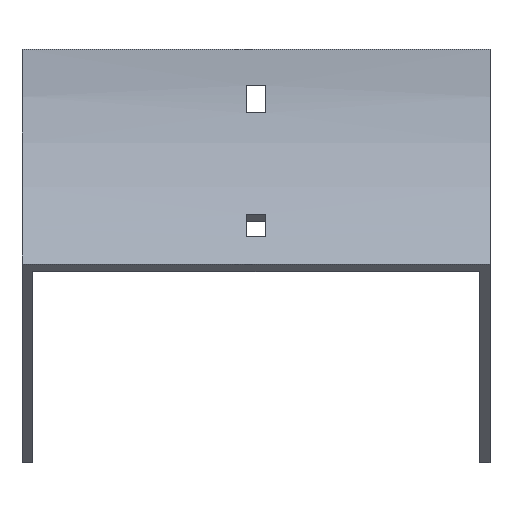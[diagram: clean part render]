
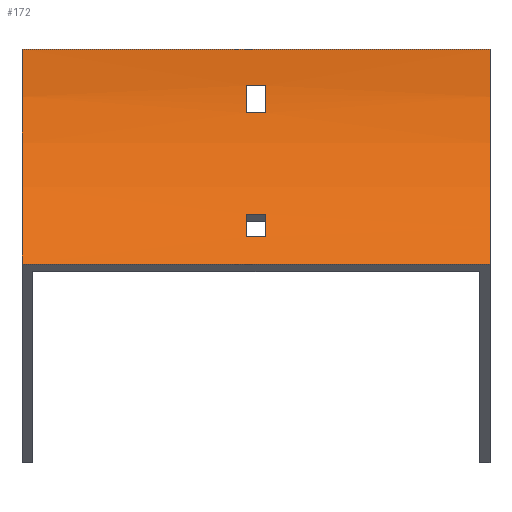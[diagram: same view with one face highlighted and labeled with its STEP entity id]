
A CAD part, front view. The second image highlights one B-rep face of the part: STEP entity #172.
In plain terms, the highlighted cylindrical face has radius 100 mm (diameter 200 mm), a partial arc.
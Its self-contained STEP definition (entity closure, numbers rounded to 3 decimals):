
#10 = CARTESIAN_POINT ( 'NONE',  ( -3.25, -100., 0. ) ) ;
#13 = LINE ( 'NONE', #554, #1464 ) ;
#73 = CARTESIAN_POINT ( 'NONE',  ( 3.25, -0.723, -12. ) ) ;
#146 = CARTESIAN_POINT ( 'NONE',  ( -3.25, -21.315, -61.714 ) ) ;
#149 = CARTESIAN_POINT ( 'NONE',  ( -77., 0., 0. ) ) ;
#158 = DIRECTION ( 'NONE',  ( 0., 0., -1. ) ) ;
#172 = ADVANCED_FACE ( 'NONE', ( #1457, #403, #1184 ), #293, .F. ) ;
#173 = DIRECTION ( 'NONE',  ( 1., 0., 0. ) ) ;
#180 = EDGE_CURVE ( 'NONE', #1000, #995, #257, .T. ) ;
#185 = VECTOR ( 'NONE', #173, 1000. ) ;
#193 = VERTEX_POINT ( 'NONE', #149 ) ;
#207 = CARTESIAN_POINT ( 'NONE',  ( -3.25, -16.017, -54.285 ) ) ;
#217 = CARTESIAN_POINT ( 'NONE',  ( -77., -100., 0. ) ) ;
#220 = CARTESIAN_POINT ( 'NONE',  ( 77., -100., 0. ) ) ;
#224 = EDGE_CURVE ( 'NONE', #1309, #585, #1073, .T. ) ;
#234 = DIRECTION ( 'NONE',  ( 0., 0., 1. ) ) ;
#257 = CIRCLE ( 'NONE', #1567, 100. ) ;
#291 = EDGE_LOOP ( 'NONE', ( #622, #1519, #376, #529 ) ) ;
#293 = CYLINDRICAL_SURFACE ( 'NONE', #439, 100. ) ;
#294 = DIRECTION ( 'NONE',  ( -1., 0., 0. ) ) ;
#319 = ORIENTED_EDGE ( 'NONE', *, *, #224, .F. ) ;
#326 = DIRECTION ( 'NONE',  ( -1., 0., 0. ) ) ;
#352 = EDGE_CURVE ( 'NONE', #1070, #1309, #1132, .T. ) ;
#376 = ORIENTED_EDGE ( 'NONE', *, *, #1510, .T. ) ;
#390 = EDGE_CURVE ( 'NONE', #995, #515, #1678, .T. ) ;
#403 = FACE_BOUND ( 'NONE', #291, .T. ) ;
#408 = CIRCLE ( 'NONE', #1584, 100. ) ;
#421 = DIRECTION ( 'NONE',  ( -1., 0., 0. ) ) ;
#428 = CIRCLE ( 'NONE', #806, 100. ) ;
#439 = AXIS2_PLACEMENT_3D ( 'NONE', #1585, #907, #797 ) ;
#464 = LINE ( 'NONE', #1474, #680 ) ;
#470 = DIRECTION ( 'NONE',  ( -1., 0., 0. ) ) ;
#511 = CARTESIAN_POINT ( 'NONE',  ( -3.25, -0.723, -12. ) ) ;
#515 = VERTEX_POINT ( 'NONE', #541 ) ;
#520 = DIRECTION ( 'NONE',  ( 1., 0., 0. ) ) ;
#529 = ORIENTED_EDGE ( 'NONE', *, *, #1428, .T. ) ;
#540 = EDGE_LOOP ( 'NONE', ( #1282, #794, #1340, #1283 ) ) ;
#541 = CARTESIAN_POINT ( 'NONE',  ( 3.25, -21.315, -61.714 ) ) ;
#554 = CARTESIAN_POINT ( 'NONE',  ( 77., -16.017, -54.285 ) ) ;
#585 = VERTEX_POINT ( 'NONE', #801 ) ;
#622 = ORIENTED_EDGE ( 'NONE', *, *, #1441, .T. ) ;
#649 = AXIS2_PLACEMENT_3D ( 'NONE', #220, #470, #859 ) ;
#657 = DIRECTION ( 'NONE',  ( -1., 0., 0. ) ) ;
#680 = VECTOR ( 'NONE', #326, 1000. ) ;
#685 = CARTESIAN_POINT ( 'NONE',  ( 77., -29.289, -70.711 ) ) ;
#692 = VECTOR ( 'NONE', #421, 1000. ) ;
#707 = EDGE_CURVE ( 'NONE', #193, #585, #428, .T. ) ;
#716 = VERTEX_POINT ( 'NONE', #73 ) ;
#722 = DIRECTION ( 'NONE',  ( 0., 0., 1. ) ) ;
#740 = DIRECTION ( 'NONE',  ( -1., 0., 0. ) ) ;
#794 = ORIENTED_EDGE ( 'NONE', *, *, #957, .F. ) ;
#797 = DIRECTION ( 'NONE',  ( 0., 0., 1. ) ) ;
#801 = CARTESIAN_POINT ( 'NONE',  ( -77., -29.289, -70.711 ) ) ;
#806 = AXIS2_PLACEMENT_3D ( 'NONE', #217, #740, #722 ) ;
#815 = DIRECTION ( 'NONE',  ( -1., 0., 0. ) ) ;
#859 = DIRECTION ( 'NONE',  ( 0., 0., 1. ) ) ;
#867 = EDGE_LOOP ( 'NONE', ( #1230, #319, #1483, #1162 ) ) ;
#882 = DIRECTION ( 'NONE',  ( 1., 0., 0. ) ) ;
#897 = VECTOR ( 'NONE', #294, 1000. ) ;
#907 = DIRECTION ( 'NONE',  ( -1., 0., 0. ) ) ;
#912 = VERTEX_POINT ( 'NONE', #1211 ) ;
#913 = VECTOR ( 'NONE', #1541, 1000. ) ;
#943 = LINE ( 'NONE', #1466, #897 ) ;
#957 = EDGE_CURVE ( 'NONE', #912, #1000, #13, .T. ) ;
#965 = CARTESIAN_POINT ( 'NONE',  ( 77., -0.723, -12. ) ) ;
#986 = CARTESIAN_POINT ( 'NONE',  ( 77., -21.315, -61.714 ) ) ;
#995 = VERTEX_POINT ( 'NONE', #146 ) ;
#1000 = VERTEX_POINT ( 'NONE', #207 ) ;
#1010 = CARTESIAN_POINT ( 'NONE',  ( 3.25, -2.23, -21. ) ) ;
#1043 = CARTESIAN_POINT ( 'NONE',  ( -3.25, -2.23, -21. ) ) ;
#1070 = VERTEX_POINT ( 'NONE', #1218 ) ;
#1073 = LINE ( 'NONE', #685, #692 ) ;
#1115 = CIRCLE ( 'NONE', #1281, 100. ) ;
#1132 = CIRCLE ( 'NONE', #649, 100. ) ;
#1162 = ORIENTED_EDGE ( 'NONE', *, *, #1394, .T. ) ;
#1175 = EDGE_CURVE ( 'NONE', #1329, #1278, #408, .T. ) ;
#1184 = FACE_BOUND ( 'NONE', #540, .T. ) ;
#1211 = CARTESIAN_POINT ( 'NONE',  ( 3.25, -16.017, -54.285 ) ) ;
#1215 = DIRECTION ( 'NONE',  ( 0., 0., -1. ) ) ;
#1218 = CARTESIAN_POINT ( 'NONE',  ( 77., 0., 0. ) ) ;
#1222 = AXIS2_PLACEMENT_3D ( 'NONE', #1577, #1232, #1215 ) ;
#1230 = ORIENTED_EDGE ( 'NONE', *, *, #707, .T. ) ;
#1232 = DIRECTION ( 'NONE',  ( -1., 0., 0. ) ) ;
#1244 = VERTEX_POINT ( 'NONE', #1010 ) ;
#1248 = EDGE_CURVE ( 'NONE', #515, #912, #1115, .T. ) ;
#1278 = VERTEX_POINT ( 'NONE', #511 ) ;
#1279 = CIRCLE ( 'NONE', #1222, 100. ) ;
#1281 = AXIS2_PLACEMENT_3D ( 'NONE', #1682, #882, #234 ) ;
#1282 = ORIENTED_EDGE ( 'NONE', *, *, #180, .F. ) ;
#1283 = ORIENTED_EDGE ( 'NONE', *, *, #390, .F. ) ;
#1309 = VERTEX_POINT ( 'NONE', #1323 ) ;
#1323 = CARTESIAN_POINT ( 'NONE',  ( 77., -29.289, -70.711 ) ) ;
#1329 = VERTEX_POINT ( 'NONE', #1043 ) ;
#1340 = ORIENTED_EDGE ( 'NONE', *, *, #1248, .F. ) ;
#1389 = DIRECTION ( 'NONE',  ( 0., 0., 1. ) ) ;
#1394 = EDGE_CURVE ( 'NONE', #1070, #193, #943, .T. ) ;
#1397 = CARTESIAN_POINT ( 'NONE',  ( -3.25, -100., 0. ) ) ;
#1428 = EDGE_CURVE ( 'NONE', #716, #1244, #1279, .T. ) ;
#1441 = EDGE_CURVE ( 'NONE', #1244, #1329, #464, .T. ) ;
#1457 = FACE_OUTER_BOUND ( 'NONE', #867, .T. ) ;
#1464 = VECTOR ( 'NONE', #815, 1000. ) ;
#1466 = CARTESIAN_POINT ( 'NONE',  ( 77., 0., 0. ) ) ;
#1474 = CARTESIAN_POINT ( 'NONE',  ( 77., -2.23, -21. ) ) ;
#1481 = LINE ( 'NONE', #965, #185 ) ;
#1483 = ORIENTED_EDGE ( 'NONE', *, *, #352, .F. ) ;
#1510 = EDGE_CURVE ( 'NONE', #1278, #716, #1481, .T. ) ;
#1519 = ORIENTED_EDGE ( 'NONE', *, *, #1175, .T. ) ;
#1541 = DIRECTION ( 'NONE',  ( 1., 0., 0. ) ) ;
#1567 = AXIS2_PLACEMENT_3D ( 'NONE', #10, #657, #158 ) ;
#1577 = CARTESIAN_POINT ( 'NONE',  ( 3.25, -100., 0. ) ) ;
#1584 = AXIS2_PLACEMENT_3D ( 'NONE', #1397, #520, #1389 ) ;
#1585 = CARTESIAN_POINT ( 'NONE',  ( 77., -100., 0. ) ) ;
#1678 = LINE ( 'NONE', #986, #913 ) ;
#1682 = CARTESIAN_POINT ( 'NONE',  ( 3.25, -100., 0. ) ) ;
